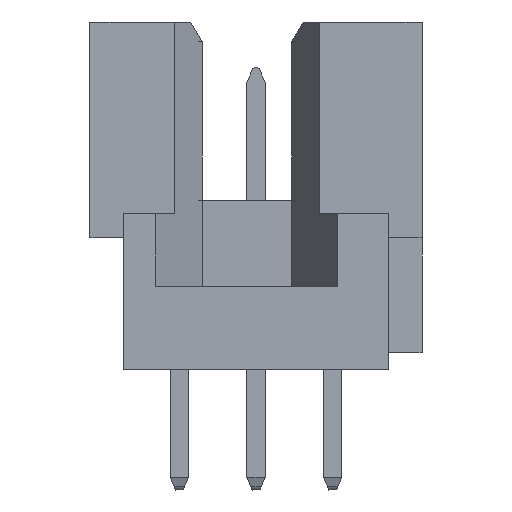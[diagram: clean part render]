
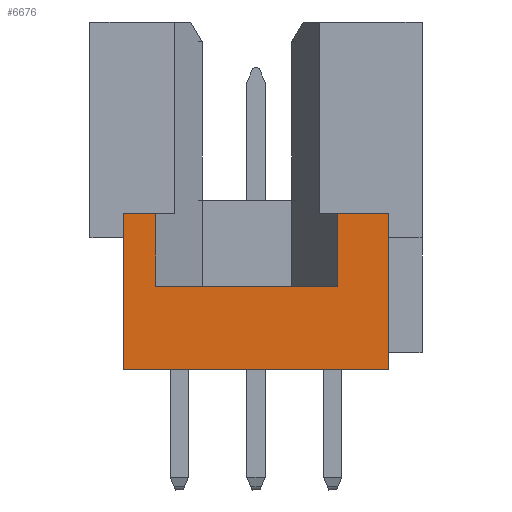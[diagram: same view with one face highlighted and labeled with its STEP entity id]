
A CAD part, left-side view. The second image highlights one B-rep face of the part: STEP entity #6676.
In plain terms, the highlighted planar face has unit normal (-1, 0, 0).
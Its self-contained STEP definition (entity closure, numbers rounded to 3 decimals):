
#6676=ADVANCED_FACE('',(#8942),#7892,.T.);
#7892=PLANE('',#29265);
#8942=FACE_OUTER_BOUND('',#10270,.T.);
#10270=EDGE_LOOP('',(#12467,#12468,#12469,#12470,#12471,#12472,#12473,#12474));
#12467=ORIENTED_EDGE('',*,*,#20438,.T.);
#12468=ORIENTED_EDGE('',*,*,#20191,.T.);
#12469=ORIENTED_EDGE('',*,*,#20193,.T.);
#12470=ORIENTED_EDGE('',*,*,#20196,.T.);
#12471=ORIENTED_EDGE('',*,*,#20199,.T.);
#12472=ORIENTED_EDGE('',*,*,#20439,.T.);
#12473=ORIENTED_EDGE('',*,*,#20440,.F.);
#12474=ORIENTED_EDGE('',*,*,#20434,.T.);
#18101=VERTEX_POINT('',#37673);
#18102=VERTEX_POINT('',#37675);
#18103=VERTEX_POINT('',#37679);
#18106=VERTEX_POINT('',#37686);
#18107=VERTEX_POINT('',#37691);
#18322=VERTEX_POINT('',#38159);
#18323=VERTEX_POINT('',#38161);
#18324=VERTEX_POINT('',#38171);
#20191=EDGE_CURVE('',#18101,#18102,#23224,.T.);
#20193=EDGE_CURVE('',#18102,#18103,#23226,.T.);
#20196=EDGE_CURVE('',#18103,#18106,#23229,.T.);
#20199=EDGE_CURVE('',#18106,#18107,#23232,.T.);
#20434=EDGE_CURVE('',#18323,#18322,#23466,.T.);
#20438=EDGE_CURVE('',#18322,#18101,#23470,.T.);
#20439=EDGE_CURVE('',#18107,#18324,#23471,.T.);
#20440=EDGE_CURVE('',#18323,#18324,#23472,.T.);
#23224=LINE('',#37676,#25919);
#23226=LINE('',#37681,#25921);
#23229=LINE('',#37687,#25924);
#23232=LINE('',#37693,#25927);
#23466=LINE('',#38160,#26161);
#23470=LINE('',#38168,#26165);
#23471=LINE('',#38170,#26166);
#23472=LINE('',#38172,#26167);
#25919=VECTOR('',#31076,1.);
#25921=VECTOR('',#31080,1.);
#25924=VECTOR('',#31085,1.);
#25927=VECTOR('',#31090,1.);
#26161=VECTOR('',#31362,1.);
#26165=VECTOR('',#31372,1.);
#26166=VECTOR('',#31375,1.);
#26167=VECTOR('',#31376,1.);
#29265=AXIS2_PLACEMENT_3D('',#38173,#31377,#31378);
#31076=DIRECTION('',(0.,0.,-1.));
#31080=DIRECTION('',(0.,1.,0.));
#31085=DIRECTION('',(0.,0.,1.));
#31090=DIRECTION('',(0.,1.,0.));
#31362=DIRECTION('',(0.,0.,1.));
#31372=DIRECTION('',(0.,1.,0.));
#31375=DIRECTION('',(0.,0.,-1.));
#31376=DIRECTION('',(0.,1.,0.));
#31377=DIRECTION('',(-1.,0.,0.));
#31378=DIRECTION('',(0.,-1.,0.));
#37673=CARTESIAN_POINT('',(-27.45,-2.715,0.));
#37675=CARTESIAN_POINT('',(-27.45,-2.715,-2.4));
#37676=CARTESIAN_POINT('',(-27.45,-2.715,0.));
#37679=CARTESIAN_POINT('',(-27.45,3.315,-2.4));
#37681=CARTESIAN_POINT('',(-27.45,-2.715,-2.4));
#37686=CARTESIAN_POINT('',(-27.45,3.315,0.));
#37687=CARTESIAN_POINT('',(-27.45,3.315,-2.4));
#37691=CARTESIAN_POINT('',(-27.45,4.375,0.));
#37693=CARTESIAN_POINT('',(-27.45,3.315,0.));
#38159=CARTESIAN_POINT('',(-27.45,-4.375,0.));
#38160=CARTESIAN_POINT('',(-27.45,-4.375,-5.15));
#38161=CARTESIAN_POINT('',(-27.45,-4.375,-5.15));
#38168=CARTESIAN_POINT('',(-27.45,-4.375,0.));
#38170=CARTESIAN_POINT('',(-27.45,4.375,0.));
#38171=CARTESIAN_POINT('',(-27.45,4.375,-5.15));
#38172=CARTESIAN_POINT('',(-27.45,-4.375,-5.15));
#38173=CARTESIAN_POINT('',(-27.45,4.375,-5.15));
